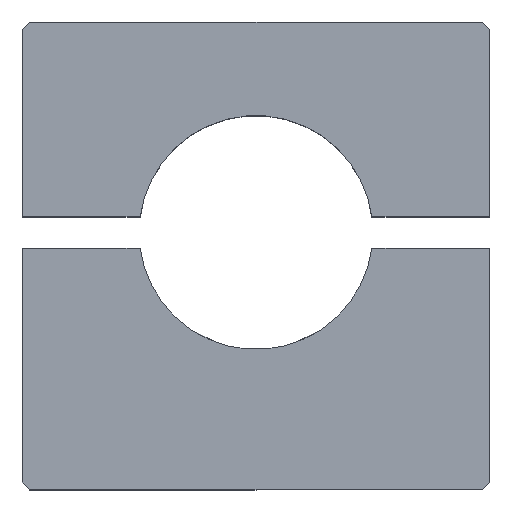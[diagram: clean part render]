
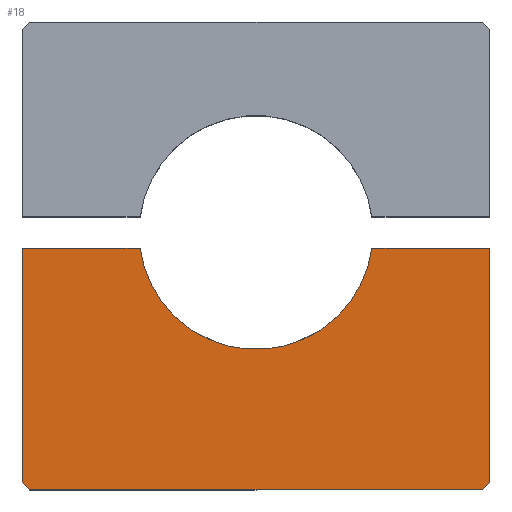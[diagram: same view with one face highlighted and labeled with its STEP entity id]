
A CAD part, top view. The second image highlights one B-rep face of the part: STEP entity #18.
In plain terms, the highlighted planar face has unit normal (0, 0, 1).
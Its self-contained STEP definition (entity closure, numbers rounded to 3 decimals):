
#18 = ADVANCED_FACE ( 'NONE', ( #48 ), #642, .T. ) ;
#40 = LINE ( 'NONE', #444, #82 ) ;
#41 = EDGE_LOOP ( 'NONE', ( #323, #337, #320, #310, #322, #307, #328, #312 ) ) ;
#48 = FACE_OUTER_BOUND ( 'NONE', #41, .T. ) ;
#82 = VECTOR ( 'NONE', #445, 1000. ) ;
#178 = VECTOR ( 'NONE', #516, 1000. ) ;
#193 = LINE ( 'NONE', #522, #199 ) ;
#197 = LINE ( 'NONE', #517, #178 ) ;
#199 = VECTOR ( 'NONE', #518, 1000. ) ;
#217 = CIRCLE ( 'NONE', #727, 7.5 ) ;
#241 = LINE ( 'NONE', #569, #242 ) ;
#242 = VECTOR ( 'NONE', #568, 1000. ) ;
#247 = LINE ( 'NONE', #563, #248 ) ;
#248 = VECTOR ( 'NONE', #562, 1000. ) ;
#249 = LINE ( 'NONE', #561, #250 ) ;
#250 = VECTOR ( 'NONE', #560, 1000. ) ;
#251 = LINE ( 'NONE', #558, #252 ) ;
#252 = VECTOR ( 'NONE', #557, 1000. ) ;
#307 = ORIENTED_EDGE ( 'NONE', *, *, #832, .T. ) ;
#310 = ORIENTED_EDGE ( 'NONE', *, *, #753, .T. ) ;
#312 = ORIENTED_EDGE ( 'NONE', *, *, #725, .T. ) ;
#320 = ORIENTED_EDGE ( 'NONE', *, *, #830, .T. ) ;
#322 = ORIENTED_EDGE ( 'NONE', *, *, #803, .T. ) ;
#323 = ORIENTED_EDGE ( 'NONE', *, *, #754, .T. ) ;
#328 = ORIENTED_EDGE ( 'NONE', *, *, #831, .T. ) ;
#337 = ORIENTED_EDGE ( 'NONE', *, *, #826, .T. ) ;
#358 = VERTEX_POINT ( 'NONE', #682 ) ;
#360 = VERTEX_POINT ( 'NONE', #667 ) ;
#361 = VERTEX_POINT ( 'NONE', #666 ) ;
#373 = CARTESIAN_POINT ( 'NONE',  ( 0., 0., 5. ) ) ;
#378 = VERTEX_POINT ( 'NONE', #669 ) ;
#382 = DIRECTION ( 'NONE',  ( 0., 0., 1. ) ) ;
#392 = DIRECTION ( 'NONE',  ( 1., 0., 0. ) ) ;
#431 = CARTESIAN_POINT ( 'NONE',  ( -15., -16., 5. ) ) ;
#438 = CARTESIAN_POINT ( 'NONE',  ( -15., -1., 5. ) ) ;
#444 = CARTESIAN_POINT ( 'NONE',  ( -15.5, -15.5, 5. ) ) ;
#445 = DIRECTION ( 'NONE',  ( 0.707, -0.707, 0. ) ) ;
#461 = DIRECTION ( 'NONE',  ( 1., 0., 0. ) ) ;
#462 = DIRECTION ( 'NONE',  ( 0., 0., -1. ) ) ;
#471 = CARTESIAN_POINT ( 'NONE',  ( 0., 0., 5. ) ) ;
#516 = DIRECTION ( 'NONE',  ( 1., 0., 0. ) ) ;
#517 = CARTESIAN_POINT ( 'NONE',  ( -15., -16.5, 5. ) ) ;
#518 = DIRECTION ( 'NONE',  ( -1., 0., 0. ) ) ;
#522 = CARTESIAN_POINT ( 'NONE',  ( 7.433, -1., 5. ) ) ;
#557 = DIRECTION ( 'NONE',  ( -1., 0., 0. ) ) ;
#558 = CARTESIAN_POINT ( 'NONE',  ( -7.433, -1., 5. ) ) ;
#560 = DIRECTION ( 'NONE',  ( 0., -1., 0. ) ) ;
#561 = CARTESIAN_POINT ( 'NONE',  ( -15., -1., 5. ) ) ;
#562 = DIRECTION ( 'NONE',  ( 0., 1., 0. ) ) ;
#563 = CARTESIAN_POINT ( 'NONE',  ( 15., -1., 5. ) ) ;
#568 = DIRECTION ( 'NONE',  ( 0.707, 0.707, 0. ) ) ;
#569 = CARTESIAN_POINT ( 'NONE',  ( 15.5, -15.5, 5. ) ) ;
#642 = PLANE ( 'NONE',  #774 ) ;
#666 = CARTESIAN_POINT ( 'NONE',  ( -7.433, -1., 5. ) ) ;
#667 = CARTESIAN_POINT ( 'NONE',  ( 15., -1., 5. ) ) ;
#669 = CARTESIAN_POINT ( 'NONE',  ( 7.433, -1., 5. ) ) ;
#676 = CARTESIAN_POINT ( 'NONE',  ( 14.5, -16.5, 5. ) ) ;
#678 = CARTESIAN_POINT ( 'NONE',  ( -14.5, -16.5, 5. ) ) ;
#682 = CARTESIAN_POINT ( 'NONE',  ( 15., -16., 5. ) ) ;
#696 = VERTEX_POINT ( 'NONE', #676 ) ;
#699 = VERTEX_POINT ( 'NONE', #678 ) ;
#702 = VERTEX_POINT ( 'NONE', #438 ) ;
#710 = VERTEX_POINT ( 'NONE', #431 ) ;
#725 = EDGE_CURVE ( 'NONE', #710, #699, #40, .T. ) ;
#727 = AXIS2_PLACEMENT_3D ( 'NONE', #471, #462, #461 ) ;
#753 = EDGE_CURVE ( 'NONE', #360, #378, #193, .T. ) ;
#754 = EDGE_CURVE ( 'NONE', #699, #696, #197, .T. ) ;
#774 = AXIS2_PLACEMENT_3D ( 'NONE', #373, #382, #392 ) ;
#803 = EDGE_CURVE ( 'NONE', #378, #361, #217, .T. ) ;
#826 = EDGE_CURVE ( 'NONE', #696, #358, #241, .T. ) ;
#830 = EDGE_CURVE ( 'NONE', #358, #360, #247, .T. ) ;
#831 = EDGE_CURVE ( 'NONE', #702, #710, #249, .T. ) ;
#832 = EDGE_CURVE ( 'NONE', #361, #702, #251, .T. ) ;
